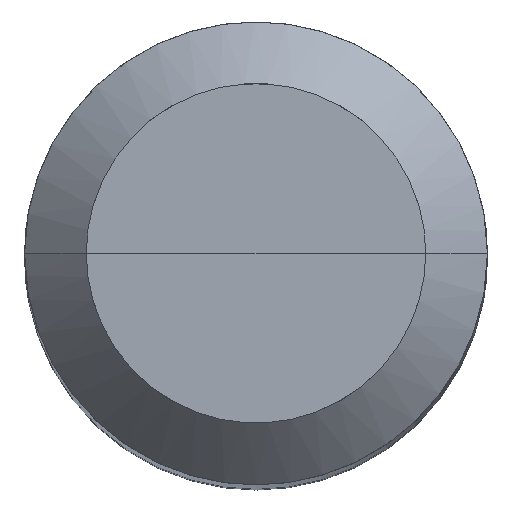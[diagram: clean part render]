
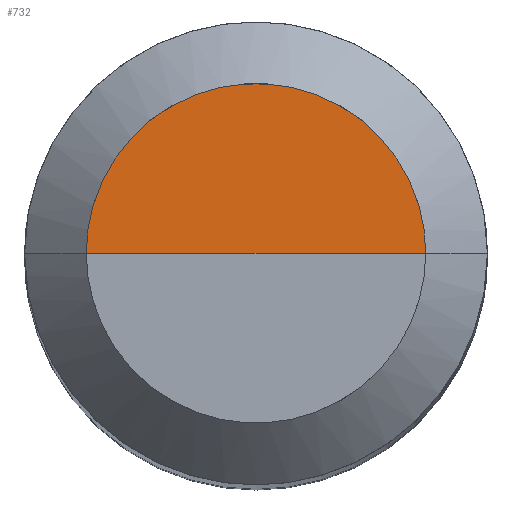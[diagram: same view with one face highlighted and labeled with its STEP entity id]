
A CAD part, top view. The second image highlights one B-rep face of the part: STEP entity #732.
In plain terms, the highlighted free-form (B-spline) face has degree [1, 2] with [2, 5] control points.
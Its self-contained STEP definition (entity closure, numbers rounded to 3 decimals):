
#535=CARTESIAN_POINT('',(2.2,0.0,31.0));
#536=CARTESIAN_POINT('',(2.2,2.2,31.0));
#537=CARTESIAN_POINT('',(0.0,2.2,31.0));
#538=CARTESIAN_POINT('',(-2.2,2.2,31.0));
#539=CARTESIAN_POINT('',(-2.2,0.0,31.0));
#540=CARTESIAN_POINT('',(0.0,0.0,31.0));
#717=(
BOUNDED_SURFACE()
B_SPLINE_SURFACE(1,2,(
(#535,#536,#537,#538,#539),
(#540,#540,#540,#540,#540)
), .UNSPECIFIED.,.F.,.F.,.F.)
B_SPLINE_SURFACE_WITH_KNOTS((2,2),(3,2,3),(
0.0,1.0),(
0.0,0.5,1.0), .UNSPECIFIED.)
GEOMETRIC_REPRESENTATION_ITEM()
RATIONAL_B_SPLINE_SURFACE(((1.0,0.707,1.0,0.707,1.0),
(1.0,0.707,1.0,0.707,1.0)
))
REPRESENTATION_ITEM('')
SURFACE()
);
#718=(
BOUNDED_CURVE()
B_SPLINE_CURVE(2,(#539,#538,#537,#536,#535),.UNSPECIFIED.,.F.,.F.)
B_SPLINE_CURVE_WITH_KNOTS((3,2,3),
(0.0,0.5,1.0),.UNSPECIFIED.)
CURVE()
GEOMETRIC_REPRESENTATION_ITEM()
RATIONAL_B_SPLINE_CURVE((1.0,0.707,1.0,0.707,1.0))
REPRESENTATION_ITEM('')
);
#719=(
BOUNDED_CURVE()
B_SPLINE_CURVE(1,(#535,#540),.UNSPECIFIED.,.F.,.F.)
B_SPLINE_CURVE_WITH_KNOTS((2,2),
(0.0,1.0),.UNSPECIFIED.)
CURVE()
GEOMETRIC_REPRESENTATION_ITEM()
RATIONAL_B_SPLINE_CURVE((1.0,1.0))
REPRESENTATION_ITEM('')
);
#720=(
BOUNDED_CURVE()
B_SPLINE_CURVE(1,(#540,#539),.UNSPECIFIED.,.F.,.F.)
B_SPLINE_CURVE_WITH_KNOTS((2,2),
(0.0,1.0),.UNSPECIFIED.)
CURVE()
GEOMETRIC_REPRESENTATION_ITEM()
RATIONAL_B_SPLINE_CURVE((1.0,1.0))
REPRESENTATION_ITEM('')
);
#721=VERTEX_POINT('',#535);
#722=VERTEX_POINT('',#539);
#723=VERTEX_POINT('',#540);
#724=EDGE_CURVE('',#722,#721,#718,.T.);
#725=EDGE_CURVE('',#721,#723,#719,.T.);
#726=EDGE_CURVE('',#723,#722,#720,.T.);
#727=ORIENTED_EDGE('',*,*,#724,.T.);
#728=ORIENTED_EDGE('',*,*,#725,.T.);
#729=ORIENTED_EDGE('',*,*,#726,.T.);
#730=EDGE_LOOP('',(#727,#728,#729));
#731=FACE_OUTER_BOUND('',#730,.T.);
#732=ADVANCED_FACE('',(#731),#717,.T.);
